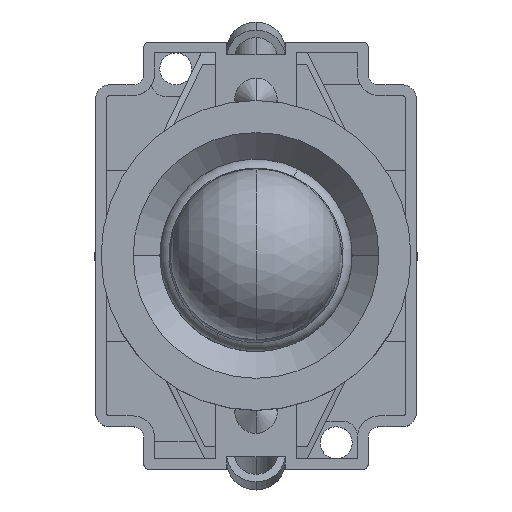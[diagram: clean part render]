
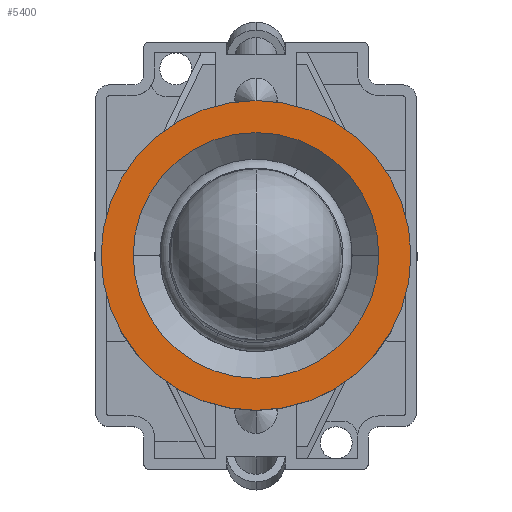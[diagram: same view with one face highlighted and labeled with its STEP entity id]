
A CAD part, top view. The second image highlights one B-rep face of the part: STEP entity #5400.
In plain terms, the highlighted planar face has unit normal (0, 0, 1).
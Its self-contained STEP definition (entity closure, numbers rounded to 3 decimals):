
#1745 = EDGE_LOOP ( 'NONE', ( #7072, #24022 ) ) ;
#1832 = CARTESIAN_POINT ( 'NONE',  ( 0., 0., 0. ) ) ;
#2706 = DIRECTION ( 'NONE',  ( 0., 0., 1. ) ) ;
#3851 = DIRECTION ( 'NONE',  ( 1., 0., 0. ) ) ;
#4465 = CARTESIAN_POINT ( 'NONE',  ( -11.5, 0., 0. ) ) ;
#4632 = CIRCLE ( 'NONE', #22999, 11.5 ) ;
#5343 = EDGE_CURVE ( 'NONE', #11231, #9157, #5949, .T. ) ;
#5400 = ADVANCED_FACE ( 'NONE', ( #14538, #25024 ), #19531, .F. ) ;
#5790 = CARTESIAN_POINT ( 'NONE',  ( 0., 14.5, 0. ) ) ;
#5875 = VERTEX_POINT ( 'NONE', #9121 ) ;
#5949 = CIRCLE ( 'NONE', #7448, 11.5 ) ;
#6662 = CARTESIAN_POINT ( 'NONE',  ( 0., 0., 0. ) ) ;
#7072 = ORIENTED_EDGE ( 'NONE', *, *, #13777, .T. ) ;
#7448 = AXIS2_PLACEMENT_3D ( 'NONE', #7589, #21352, #9557 ) ;
#7589 = CARTESIAN_POINT ( 'NONE',  ( 0., 0., 0. ) ) ;
#8625 = DIRECTION ( 'NONE',  ( 1., 0., 0. ) ) ;
#9021 = AXIS2_PLACEMENT_3D ( 'NONE', #14520, #2706, #16491 ) ;
#9121 = CARTESIAN_POINT ( 'NONE',  ( 14.5, 0., 0. ) ) ;
#9157 = VERTEX_POINT ( 'NONE', #15616 ) ;
#9557 = DIRECTION ( 'NONE',  ( 1., 0., 0. ) ) ;
#9732 = DIRECTION ( 'NONE',  ( -1., 0., 0. ) ) ;
#9882 = EDGE_CURVE ( 'NONE', #15448, #5875, #20815, .T. ) ;
#11231 = VERTEX_POINT ( 'NONE', #4465 ) ;
#11641 = CARTESIAN_POINT ( 'NONE',  ( -14.5, 0., 0. ) ) ;
#12072 = AXIS2_PLACEMENT_3D ( 'NONE', #6662, #20440, #8625 ) ;
#13777 = EDGE_CURVE ( 'NONE', #5875, #15448, #19977, .T. ) ;
#14520 = CARTESIAN_POINT ( 'NONE',  ( 0., 0., 0. ) ) ;
#14538 = FACE_BOUND ( 'NONE', #18178, .T. ) ;
#15377 = AXIS2_PLACEMENT_3D ( 'NONE', #5790, #21516, #9732 ) ;
#15448 = VERTEX_POINT ( 'NONE', #11641 ) ;
#15616 = CARTESIAN_POINT ( 'NONE',  ( 11.5, 0., 0. ) ) ;
#15663 = DIRECTION ( 'NONE',  ( 0., 0., 1. ) ) ;
#16491 = DIRECTION ( 'NONE',  ( 1., 0., 0. ) ) ;
#18178 = EDGE_LOOP ( 'NONE', ( #24832, #23424 ) ) ;
#19531 = PLANE ( 'NONE',  #15377 ) ;
#19977 = CIRCLE ( 'NONE', #12072, 14.5 ) ;
#20440 = DIRECTION ( 'NONE',  ( 0., 0., 1. ) ) ;
#20815 = CIRCLE ( 'NONE', #9021, 14.5 ) ;
#21352 = DIRECTION ( 'NONE',  ( 0., 0., 1. ) ) ;
#21516 = DIRECTION ( 'NONE',  ( 0., 0., -1. ) ) ;
#22999 = AXIS2_PLACEMENT_3D ( 'NONE', #1832, #15663, #3851 ) ;
#23424 = ORIENTED_EDGE ( 'NONE', *, *, #5343, .F. ) ;
#24022 = ORIENTED_EDGE ( 'NONE', *, *, #9882, .T. ) ;
#24694 = EDGE_CURVE ( 'NONE', #9157, #11231, #4632, .T. ) ;
#24832 = ORIENTED_EDGE ( 'NONE', *, *, #24694, .F. ) ;
#25024 = FACE_OUTER_BOUND ( 'NONE', #1745, .T. ) ;
